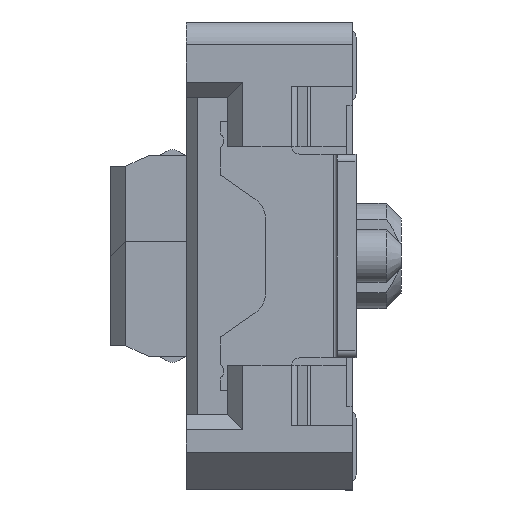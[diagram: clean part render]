
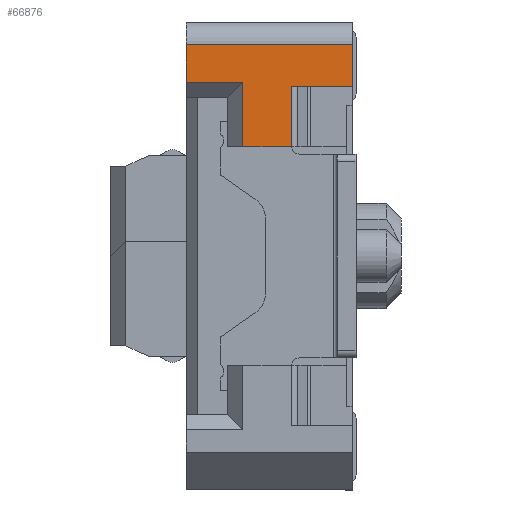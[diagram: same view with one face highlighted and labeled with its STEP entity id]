
A CAD part, left-side view. The second image highlights one B-rep face of the part: STEP entity #66876.
In plain terms, the highlighted planar face has unit normal (-1, 0, 0).
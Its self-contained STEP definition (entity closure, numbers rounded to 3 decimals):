
#60 = VERTEX_POINT ( 'NONE', #9510 ) ;
#2317 = EDGE_CURVE ( 'NONE', #60, #33180, #66058, .T. ) ;
#2707 = DIRECTION ( 'NONE',  ( 1., 0., 0. ) ) ;
#3333 = CARTESIAN_POINT ( 'NONE',  ( -8.4, 1.5, 1.45 ) ) ;
#4829 = ORIENTED_EDGE ( 'NONE', *, *, #17970, .T. ) ;
#6890 = VERTEX_POINT ( 'NONE', #40325 ) ;
#7199 = DIRECTION ( 'NONE',  ( 0., 0., 1. ) ) ;
#7988 = AXIS2_PLACEMENT_3D ( 'NONE', #36627, #2707, #42299 ) ;
#8228 = VECTOR ( 'NONE', #18252, 1000. ) ;
#8295 = DIRECTION ( 'NONE',  ( 0., 0., -1. ) ) ;
#8788 = VERTEX_POINT ( 'NONE', #64052 ) ;
#9510 = CARTESIAN_POINT ( 'NONE',  ( -8.4, 0.05, 2.25 ) ) ;
#9702 = LINE ( 'NONE', #67695, #39811 ) ;
#11879 = CARTESIAN_POINT ( 'NONE',  ( -8.4, 0.857, 1.45 ) ) ;
#12524 = CARTESIAN_POINT ( 'NONE',  ( -8.4, 0.857, 2.25 ) ) ;
#12847 = CARTESIAN_POINT ( 'NONE',  ( -8.4, 0.857, -2.25 ) ) ;
#15617 = VERTEX_POINT ( 'NONE', #3333 ) ;
#15951 = VECTOR ( 'NONE', #72401, 1000. ) ;
#17970 = EDGE_CURVE ( 'NONE', #22219, #15617, #31037, .T. ) ;
#18252 = DIRECTION ( 'NONE',  ( 0., -1., 0. ) ) ;
#18362 = CARTESIAN_POINT ( 'NONE',  ( -8.4, 0.05, -3.1 ) ) ;
#19705 = EDGE_LOOP ( 'NONE', ( #70259, #19915, #4829, #56147, #41114, #20774, #49091, #70183 ) ) ;
#19915 = ORIENTED_EDGE ( 'NONE', *, *, #49165, .T. ) ;
#20496 = CARTESIAN_POINT ( 'NONE',  ( -8.4, 3.25, 1.45 ) ) ;
#20774 = ORIENTED_EDGE ( 'NONE', *, *, #57124, .T. ) ;
#22219 = VERTEX_POINT ( 'NONE', #46768 ) ;
#24675 = LINE ( 'NONE', #20496, #67938 ) ;
#25175 = CARTESIAN_POINT ( 'NONE',  ( -8.4, 2.25, 1.45 ) ) ;
#31037 = LINE ( 'NONE', #55484, #15951 ) ;
#33180 = VERTEX_POINT ( 'NONE', #52972 ) ;
#35505 = VECTOR ( 'NONE', #8295, 1000. ) ;
#35831 = FACE_OUTER_BOUND ( 'NONE', #19705, .T. ) ;
#36377 = PLANE ( 'NONE',  #7988 ) ;
#36585 = VERTEX_POINT ( 'NONE', #55418 ) ;
#36627 = CARTESIAN_POINT ( 'NONE',  ( -8.4, 3.25, 3.1 ) ) ;
#37464 = EDGE_CURVE ( 'NONE', #36585, #8788, #50547, .T. ) ;
#39811 = VECTOR ( 'NONE', #73046, 1000. ) ;
#40325 = CARTESIAN_POINT ( 'NONE',  ( -8.4, 0.857, 2.25 ) ) ;
#41100 = LINE ( 'NONE', #12847, #46443 ) ;
#41114 = ORIENTED_EDGE ( 'NONE', *, *, #50620, .T. ) ;
#42299 = DIRECTION ( 'NONE',  ( 0., 0., -1. ) ) ;
#46443 = VECTOR ( 'NONE', #52492, 1000. ) ;
#46768 = CARTESIAN_POINT ( 'NONE',  ( -8.4, 1.5, 2.3 ) ) ;
#47185 = VERTEX_POINT ( 'NONE', #11879 ) ;
#49091 = ORIENTED_EDGE ( 'NONE', *, *, #2317, .T. ) ;
#49165 = EDGE_CURVE ( 'NONE', #8788, #22219, #9702, .T. ) ;
#49215 = LINE ( 'NONE', #71651, #62464 ) ;
#49509 = EDGE_CURVE ( 'NONE', #15617, #47185, #24675, .T. ) ;
#50301 = EDGE_CURVE ( 'NONE', #36585, #33180, #49215, .T. ) ;
#50547 = LINE ( 'NONE', #25175, #35505 ) ;
#50620 = EDGE_CURVE ( 'NONE', #47185, #6890, #41100, .T. ) ;
#52492 = DIRECTION ( 'NONE',  ( 0., 0., 1. ) ) ;
#52972 = CARTESIAN_POINT ( 'NONE',  ( -8.4, 0.05, 2.8 ) ) ;
#54964 = DIRECTION ( 'NONE',  ( 0., -1., 0. ) ) ;
#55418 = CARTESIAN_POINT ( 'NONE',  ( -8.4, 2.25, 2.8 ) ) ;
#55484 = CARTESIAN_POINT ( 'NONE',  ( -8.4, 1.5, 3.1 ) ) ;
#56147 = ORIENTED_EDGE ( 'NONE', *, *, #49509, .T. ) ;
#57124 = EDGE_CURVE ( 'NONE', #6890, #60, #70116, .T. ) ;
#60076 = DIRECTION ( 'NONE',  ( 0., -1., 0. ) ) ;
#62464 = VECTOR ( 'NONE', #54964, 1000. ) ;
#64052 = CARTESIAN_POINT ( 'NONE',  ( -8.4, 2.25, 2.3 ) ) ;
#66058 = LINE ( 'NONE', #18362, #73033 ) ;
#66876 = ADVANCED_FACE ( 'NONE', ( #35831 ), #36377, .F. ) ;
#67695 = CARTESIAN_POINT ( 'NONE',  ( -8.4, 3.25, 2.3 ) ) ;
#67938 = VECTOR ( 'NONE', #60076, 1000. ) ;
#70116 = LINE ( 'NONE', #12524, #8228 ) ;
#70183 = ORIENTED_EDGE ( 'NONE', *, *, #50301, .F. ) ;
#70259 = ORIENTED_EDGE ( 'NONE', *, *, #37464, .T. ) ;
#71651 = CARTESIAN_POINT ( 'NONE',  ( -8.4, 3.25, 2.8 ) ) ;
#72401 = DIRECTION ( 'NONE',  ( 0., 0., -1. ) ) ;
#73033 = VECTOR ( 'NONE', #7199, 1000. ) ;
#73046 = DIRECTION ( 'NONE',  ( 0., -1., 0. ) ) ;
